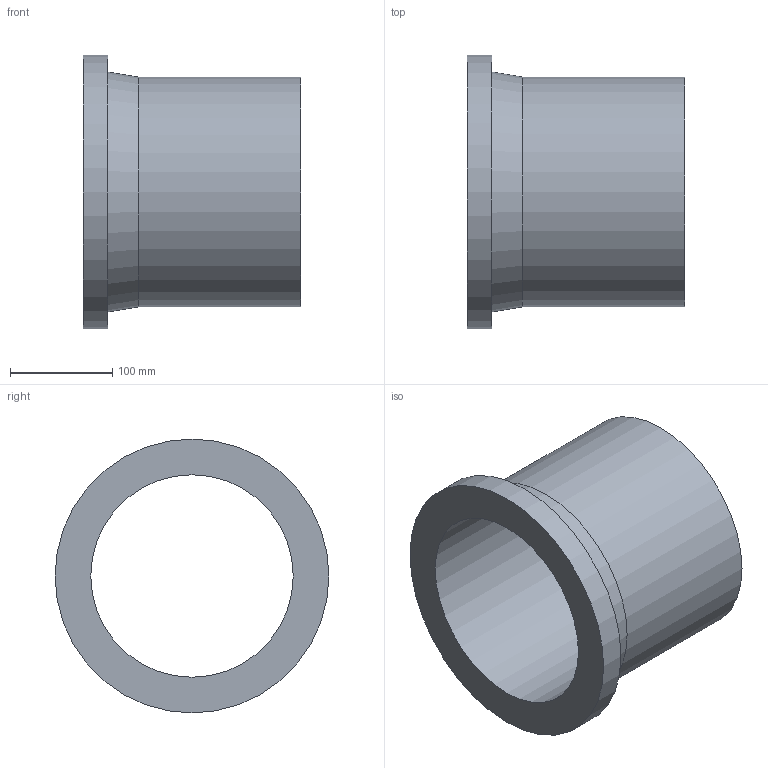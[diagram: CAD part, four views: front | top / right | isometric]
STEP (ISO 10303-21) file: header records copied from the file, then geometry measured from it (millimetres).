
FILE_DESCRIPTION(('Beschreibung'),'1');
FILE_NAME('V:/Ziel/25.80.01.063_SDR_17_PE100_225.STP', '2014-09-15T06:18:33',('Author'), ('Organization'), 'KCM Version 1.1.794.0', 'Kubotek KeyCreator', 'Authorization');
FILE_SCHEMA(('CONFIG_CONTROL_DESIGN'));
Length unit declared in the file: millimetre
Bounding box: 213 x 268 x 268 mm (x, y, z)
Volume: 2350752.4 mm3; surface area: 334702.6 mm2
Topology: 1 solids, 1 shells, 7 faces, 18 edges, 21 vertices
Faces by surface type: cylinder 3, plane 3, cone 1
Full cylindrical faces by diameter (mm): 198.2 x1, 225 x1, 268 x1
Entity records: 286 total; most frequent: DIRECTION 41, CARTESIAN_POINT 33, ORIENTED_EDGE 22, AXIS2_PLACEMENT_3D 15, EDGE_CURVE 11, VECTOR 11, LINE 11, EDGE_LOOP 10
